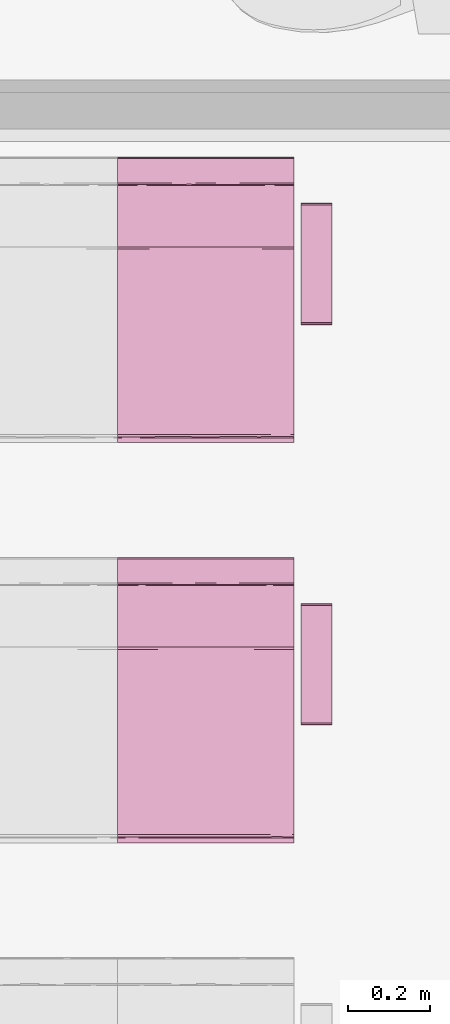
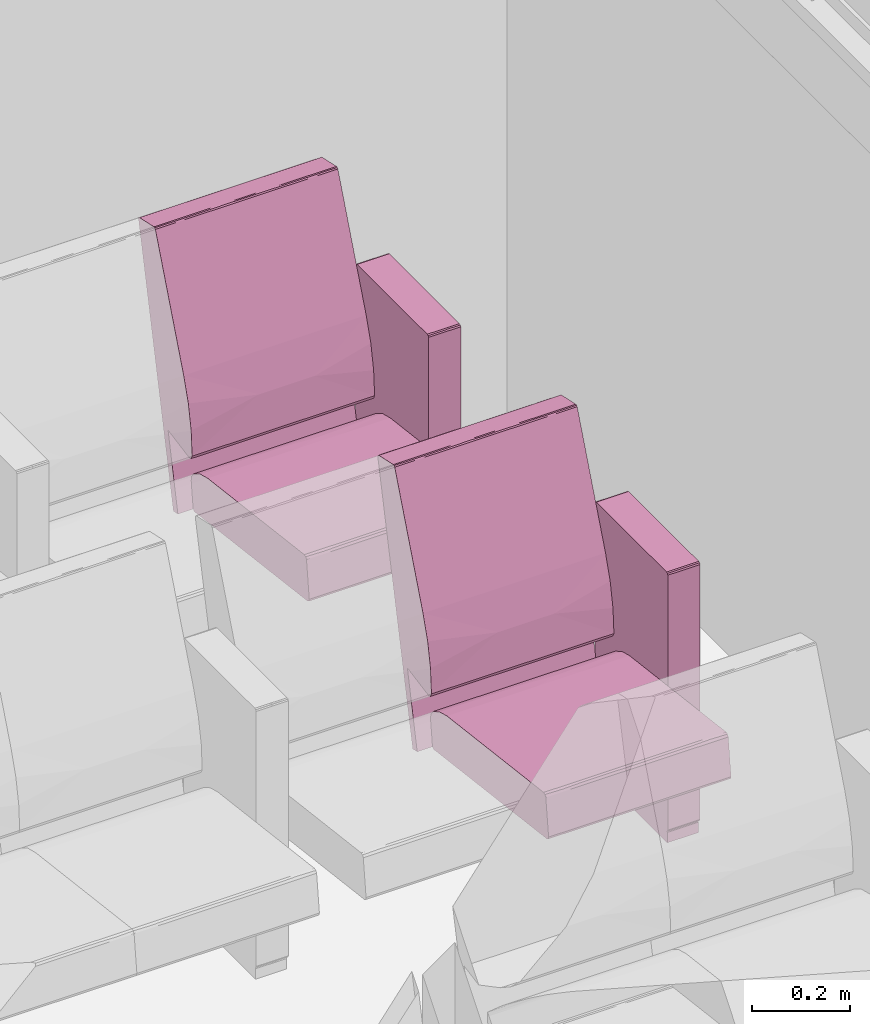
# One storey, part 141 of 155: 2 furnishings.
"""IFC2X3 building model written with IfcOpenShell, lengths in metres."""

from ifc_helpers import new_model, entity, si_unit, converted_unit, derived_unit, direction, frame, origin, place, context, subcontext, project, spatial, faceted_brep, source, transform, mapped, material, material_list, type_object, type_shapes, element, save


model = new_model("IFC2X3")

# Units and contexts
model_context = context("Model", 3, precision=1e-05, world=origin(), true_north=direction((6.12303176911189e-17, 1.0)))
body_context = subcontext(model_context, "Body", "Model", "MODEL_VIEW")
ifc_project = project(units=[si_unit("LENGTHUNIT", "METRE"), si_unit("AREAUNIT", "SQUARE_METRE"), si_unit("VOLUMEUNIT", "CUBIC_METRE"), converted_unit("PLANEANGLEUNIT", "DEGREE", entity("IfcRatioMeasure", 0.0174532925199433), si_unit("PLANEANGLEUNIT", "RADIAN"), dimensions=[0, 0, 0, 0, 0, 0, 0]), si_unit("MASSUNIT", "GRAM", prefix="KILO"), derived_unit("MASSDENSITYUNIT", [(si_unit("MASSUNIT", "GRAM", prefix="KILO"), 1), (si_unit("LENGTHUNIT", "METRE"), -3)]), si_unit("TIMEUNIT", "SECOND"), si_unit("FREQUENCYUNIT", "HERTZ"), si_unit("THERMODYNAMICTEMPERATUREUNIT", "DEGREE_CELSIUS"), derived_unit("THERMALTRANSMITTANCEUNIT", [(si_unit("MASSUNIT", "GRAM", prefix="KILO"), 1), (si_unit("THERMODYNAMICTEMPERATUREUNIT", "KELVIN"), -1), (si_unit("TIMEUNIT", "SECOND"), -3)]), derived_unit("VOLUMETRICFLOWRATEUNIT", [(si_unit("LENGTHUNIT", "METRE"), 3), (si_unit("TIMEUNIT", "SECOND"), -1)]), si_unit("ELECTRICCURRENTUNIT", "AMPERE"), si_unit("ELECTRICVOLTAGEUNIT", "VOLT"), si_unit("POWERUNIT", "WATT"), si_unit("FORCEUNIT", "NEWTON", prefix="KILO"), si_unit("ILLUMINANCEUNIT", "LUX"), si_unit("LUMINOUSFLUXUNIT", "LUMEN"), si_unit("LUMINOUSINTENSITYUNIT", "CANDELA"), derived_unit("USERDEFINED", [(si_unit("MASSUNIT", "GRAM", prefix="KILO"), -1), (si_unit("LENGTHUNIT", "METRE"), -2), (si_unit("TIMEUNIT", "SECOND"), 3), (si_unit("LUMINOUSFLUXUNIT", "LUMEN"), 1)]), derived_unit("LINEARVELOCITYUNIT", [(si_unit("LENGTHUNIT", "METRE"), 1), (si_unit("TIMEUNIT", "SECOND"), -1)]), si_unit("PRESSUREUNIT", "PASCAL"), derived_unit("USERDEFINED", [(si_unit("LENGTHUNIT", "METRE"), -2), (si_unit("MASSUNIT", "GRAM", prefix="KILO"), 1), (si_unit("TIMEUNIT", "SECOND"), -2)])], contexts=[model_context])

# Site, building, storey, space
site_placement = place(None, frame((26.9889013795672, -17.5624287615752, 0.0)))
site = spatial("IfcSite", under=ifc_project, at=site_placement, Name="Default", CompositionType="ELEMENT")
building_placement = place(site_placement, origin())
building = spatial("IfcBuilding", under=site, at=building_placement, Name="C. C. L. Monsenhor Antônio Sampaio", CompositionType="ELEMENT")
storey_placement = place(building_placement, frame((0.0, 0.0, 1.19999999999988)))
storey = spatial("IfcBuildingStorey", under=building, at=storey_placement, Name="Nível 1.2", CompositionType="ELEMENT", Elevation=1.19999999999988)
space_placement = place(storey_placement, origin())
space = spatial("IfcSpace", under=storey, at=space_placement, Name="94", CompositionType="ELEMENT", InteriorOrExteriorSpace="INTERNAL")

# Furnishings
ifc_material_1 = material(Name="V9 - V9 - Ecopelle_672_658")
ifc_material_2 = material(Name="V9 - V9 - RAL_9006_Grigio")
ifc_material_list_1 = material_list([ifc_material_1, ifc_material_2])
ifc_material_list_2 = material_list([ifc_material_1, ifc_material_2])
furniture_type = type_object("IfcFurnitureType", Name="Cadeira auditório", material=ifc_material_list_2)
shared_shape = source(origin(), body_context, "Body", "Brep", [
    faceted_brep([(0.405536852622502, -0.1075, 0.339809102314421), (0.410560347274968, -0.131924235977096, 0.34246450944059), (0.405536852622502, -0.156348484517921, 0.339809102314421), (0.41079981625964, -0.0179166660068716, 0.342749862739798), (0.410597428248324, -0.084060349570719, 0.342506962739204), (0.405536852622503, -0.0537499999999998, 0.339809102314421), (0.410248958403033, -0.173608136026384, 0.342130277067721), (0.405536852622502, -0.215, 0.339809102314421), (0.412515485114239, -0.143333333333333, 0.348529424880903), (0.412515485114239, -0.185674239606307, 0.348529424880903), (0.405536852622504, 0.1075, 0.33980910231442), (0.405536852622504, 0.156348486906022, 0.33980910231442), (0.410560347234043, 0.131924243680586, 0.342464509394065), (0.405536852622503, 0.0, 0.33980910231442), (0.411170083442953, 0.0341365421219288, 0.343251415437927), (0.41251548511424, 0.0, 0.348529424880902), (0.412515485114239, -0.0358333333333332, 0.348529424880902), (0.412515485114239, -0.0716666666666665, 0.348529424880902), (0.41251548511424, 0.143333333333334, 0.348529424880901), (0.41059742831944, 0.0840603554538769, 0.342506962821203), (0.405536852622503, 0.0537500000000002, 0.33980910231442), (0.410248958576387, 0.173608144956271, 0.342130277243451), (0.410799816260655, 0.215, 0.342749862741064), (0.412515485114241, 0.185674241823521, 0.348529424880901), (0.412515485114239, -0.215, 0.348529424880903), (0.410799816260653, -0.215, 0.342749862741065), (0.412515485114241, 0.215, 0.348529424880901), (0.41251548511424, 0.0716666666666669, 0.348529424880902), (0.405536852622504, 0.215, 0.33980910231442), (-0.0557900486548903, -0.215, 0.28268145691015), (-0.0557900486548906, -0.1881249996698, 0.282681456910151), (-0.0557900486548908, -0.161250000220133, 0.282681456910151), (-0.055790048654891, -0.134374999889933, 0.282681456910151), (-0.0557900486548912, -0.107499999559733, 0.282681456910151), (-0.0557900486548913, -0.0806250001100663, 0.282681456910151), (-0.0557900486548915, -0.0537499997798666, 0.282681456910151), (-0.0557900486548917, -0.0268749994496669, 0.282681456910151), (-0.0557900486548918, 0.0, 0.28268145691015), (-0.0557900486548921, 0.0268750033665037, 0.282681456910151), (-0.0557900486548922, 0.0537499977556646, 0.282681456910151), (-0.0557900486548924, 0.0806249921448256, 0.282681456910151), (-0.0557900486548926, 0.107499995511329, 0.282681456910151), (-0.0557900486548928, 0.138065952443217, 0.282681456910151), (-0.055790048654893, 0.168631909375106, 0.282681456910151), (-0.0557900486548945, 0.215, 0.28268145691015), (-0.0594787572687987, -0.0179017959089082, 0.283700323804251), (-0.0613666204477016, 0.0, 0.287029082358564), (-0.0594787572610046, 0.0152829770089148, 0.283700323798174), (-0.0594787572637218, -0.215, 0.283700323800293), (-0.0613666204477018, -0.215, 0.287029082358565), (-0.0613666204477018, -0.191815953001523, 0.287029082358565), (-0.0613666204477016, -0.030565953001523, 0.287029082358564), (-0.0593340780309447, -0.0671874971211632, 0.283591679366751), (-0.0593337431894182, 0.184174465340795, 0.283591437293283), (-0.0594787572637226, 0.215, 0.283700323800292), (-0.0593023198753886, 0.0940625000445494, 0.283568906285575), (-0.0613666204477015, 0.0611319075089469, 0.287029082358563), (-0.0613666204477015, 0.0916978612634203, 0.287029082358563), (-0.0613666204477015, 0.122263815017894, 0.287029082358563), (-0.0597338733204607, -0.147039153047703, 0.283913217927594), (-0.0613666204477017, -0.122263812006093, 0.287029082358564), (-0.059382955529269, -0.118123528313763, 0.28362747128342), (-0.0592501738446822, -0.180223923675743, 0.283532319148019), (-0.0613666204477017, -0.168631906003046, 0.287029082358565), (-0.0588783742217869, -0.0926899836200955, 0.283298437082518), (-0.0613666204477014, 0.168631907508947, 0.287029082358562), (-0.0613666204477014, 0.215, 0.287029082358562), (-0.0592576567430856, 0.123736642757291, 0.283537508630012), (-0.0594787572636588, 0.153348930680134, 0.283700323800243), (-0.0613666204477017, -0.0916978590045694, 0.287029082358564), (-0.0613666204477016, 0.0305659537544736, 0.287029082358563), (-0.059645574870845, 0.045848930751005, 0.283836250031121), (-0.0613666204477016, -0.0611319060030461, 0.287029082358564), (-0.0693403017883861, 0.143333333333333, 0.351419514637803), (-0.069340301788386, 0.215, 0.351419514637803), (-0.0693403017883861, -0.215, 0.351419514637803), (-0.0693403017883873, -0.143333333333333, 0.351419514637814), (-0.069340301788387, -0.0716666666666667, 0.351419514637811), (-0.0693403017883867, 0.0, 0.351419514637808), (-0.0693403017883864, 0.0716666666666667, 0.351419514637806), (-0.0653387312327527, -0.0126787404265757, 0.368680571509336), (-0.0645543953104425, -0.112272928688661, 0.369803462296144), (-0.0597085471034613, 0.0, 0.37476954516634), (-0.0655136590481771, 0.104400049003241, 0.368411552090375), (-0.0681665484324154, 0.0888707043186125, 0.36292533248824), (-0.0694879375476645, -0.0590582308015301, 0.356377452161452), (-0.0695056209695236, 0.125492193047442, 0.356093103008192), (-0.0597085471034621, 0.110316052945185, 0.374769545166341), (-0.0676206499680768, -0.215, 0.364371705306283), (-0.0672851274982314, -0.108066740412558, 0.365148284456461), (-0.0690003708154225, -0.132942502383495, 0.359900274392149), (-0.068624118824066, -0.215, 0.356813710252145), (-0.0686241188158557, 0.214999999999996, 0.356813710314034), (-0.0694502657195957, 0.0358333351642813, 0.356863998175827), (-0.0686999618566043, -0.035833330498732, 0.36116674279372), (-0.067620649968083, 0.214999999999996, 0.364371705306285), (-0.063664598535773, 0.214999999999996, 0.369570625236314), (-0.0597085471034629, 0.214999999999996, 0.374769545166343), (-0.0597085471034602, -0.110316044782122, 0.374769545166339), (-0.0636645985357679, -0.215, 0.36957062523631), (-0.0597085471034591, -0.215, 0.374769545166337), (-0.0018793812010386, -0.215, 0.398686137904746), (-0.0324117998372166, -0.0436847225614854, 0.39063968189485), (-0.0324117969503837, -0.215, 0.390639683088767), (-0.041847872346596, 0.0856576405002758, 0.386239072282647), (-0.00187938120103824, 0.102488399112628, 0.398686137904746), (-0.00187938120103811, 0.215, 0.398686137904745), (-0.0324117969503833, 0.215, 0.390639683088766), (-0.0219042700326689, 0.0570631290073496, 0.394412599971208), (-0.00187938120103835, 0.0, 0.398686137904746), (0.392202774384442, -0.215, 0.447486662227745), (0.392202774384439, -0.156349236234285, 0.447486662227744), (0.392202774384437, -0.107499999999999, 0.447486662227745), (0.392202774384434, -0.0537499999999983, 0.447486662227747), (0.392202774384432, 0.0, 0.447486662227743), (0.392202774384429, 0.0537500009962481, 0.44748666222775), (0.392202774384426, 0.107500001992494, 0.447486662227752), (0.392202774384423, 0.156349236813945, 0.447486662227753), (0.392202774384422, 0.215, 0.447486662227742), (0.397860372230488, 0.0827732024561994, 0.446039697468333), (0.401125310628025, 0.0976984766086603, 0.440530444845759), (0.398104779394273, 0.131924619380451, 0.445856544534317), (0.397373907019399, 0.173462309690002, 0.446363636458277), (0.401125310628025, 0.156349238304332, 0.440530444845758), (0.401125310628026, 0.215000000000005, 0.440530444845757), (0.398104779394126, 0.215000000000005, 0.445856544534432), (0.397860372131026, -0.0827731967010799, 0.446039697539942), (0.398104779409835, -0.131924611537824, 0.445856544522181), (0.398104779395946, -0.0268749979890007, 0.445856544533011), (0.398104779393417, 0.0237489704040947, 0.445856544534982), (0.401125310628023, -0.0488492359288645, 0.440530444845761), (0.401125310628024, 0.0488492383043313, 0.44053044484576), (0.398774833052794, -0.173462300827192, 0.445271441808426), (0.401125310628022, -0.0976984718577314, 0.440530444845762), (0.39810477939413, -0.215, 0.445856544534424), (0.401125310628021, -0.215, 0.440530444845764), (0.401125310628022, -0.156349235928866, 0.440530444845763), (0.401125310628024, 0.0, 0.44053044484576)], [[[0, 1, 2]], [[3, 4, 5]], [[2, 6, 7]], [[8, 9, 6]], [[10, 11, 12]], [[13, 3, 5]], [[3, 14, 15]], [[1, 4, 8]], [[6, 1, 8]], [[4, 3, 16]], [[16, 17, 8, 4]], [[12, 18, 19]], [[4, 1, 0]], [[20, 14, 13]], [[21, 22, 23]], [[15, 16, 3]], [[9, 24, 25]], [[26, 23, 22]], [[7, 6, 25]], [[12, 11, 21]], [[19, 14, 20]], [[4, 0, 5]], [[14, 27, 15]], [[13, 14, 3]], [[19, 18, 27]], [[19, 10, 12]], [[18, 21, 23]], [[10, 19, 20]], [[19, 27, 14]], [[2, 1, 6]], [[21, 11, 28]], [[25, 6, 9]], [[18, 12, 21]], [[22, 21, 28]], [[28, 11, 10, 20, 13, 5, 0, 2, 7, 29, 30, 31, 32, 33, 34, 35, 36, 37, 38, 39, 40, 41, 42, 43, 44]], [[45, 46, 47]], [[48, 49, 50]], [[51, 45, 52]], [[53, 54, 44]], [[55, 56, 57, 58]], [[59, 60, 61]], [[62, 63, 59]], [[34, 64, 52]], [[53, 65, 66]], [[41, 67, 42]], [[37, 36, 35, 45, 47, 38]], [[43, 42, 68]], [[29, 48, 30]], [[59, 31, 62]], [[62, 48, 50]], [[61, 69, 64]], [[65, 53, 68]], [[50, 63, 62]], [[62, 30, 48]], [[55, 58, 67]], [[32, 31, 59]], [[46, 70, 47]], [[65, 68, 58]], [[55, 40, 71]], [[70, 56, 71]], [[61, 33, 32]], [[59, 63, 60]], [[39, 38, 71, 40]], [[47, 71, 38]], [[51, 46, 45]], [[70, 71, 47]], [[71, 56, 55]], [[40, 55, 41]], [[67, 68, 42]], [[43, 68, 53]], [[43, 53, 44]], [[66, 54, 53]], [[68, 67, 58]], [[55, 67, 41]], [[72, 51, 52, 69]], [[62, 31, 30]], [[59, 61, 32]], [[35, 52, 45]], [[64, 34, 33]], [[34, 52, 35]], [[61, 60, 69]], [[52, 64, 69]], [[61, 64, 33]], [[73, 74, 66, 65, 58, 57, 56, 70, 46, 51, 72, 69, 60, 63, 50, 49, 75, 76, 77, 78, 79]], [[80, 81, 82]], [[83, 84, 80]], [[85, 78, 77, 76]], [[73, 79, 86]], [[80, 82, 83]], [[87, 83, 82]], [[88, 89, 90]], [[76, 75, 91]], [[92, 74, 73]], [[91, 90, 85]], [[80, 89, 81]], [[84, 93, 94]], [[84, 86, 93]], [[93, 78, 85]], [[73, 86, 92]], [[94, 93, 85]], [[95, 92, 84]], [[78, 93, 79]], [[80, 84, 94]], [[83, 96, 95]], [[94, 85, 90]], [[87, 97, 96]], [[98, 99, 100]], [[91, 85, 76]], [[94, 90, 89]], [[90, 91, 88]], [[89, 80, 94]], [[89, 99, 81]], [[89, 88, 99]], [[82, 81, 98]], [[81, 99, 98]], [[92, 86, 84]], [[93, 86, 79]], [[84, 83, 95]], [[96, 83, 87]], [[101, 102, 103]], [[104, 97, 87, 82]], [[105, 106, 107]], [[107, 108, 105]], [[109, 102, 101]], [[82, 102, 104]], [[102, 108, 104]], [[103, 102, 100]], [[97, 104, 107]], [[104, 108, 107]], [[102, 82, 98, 100]], [[105, 108, 109]], [[108, 102, 109]], [[109, 101, 110, 111, 112, 113, 114, 115, 116, 117, 118, 106, 105]], [[119, 120, 121]], [[122, 123, 124]], [[122, 125, 118]], [[126, 113, 112]], [[117, 121, 122]], [[121, 117, 116]], [[112, 111, 127]], [[113, 128, 129, 115, 114]], [[126, 130, 128]], [[129, 131, 119]], [[111, 132, 127]], [[132, 111, 110]], [[133, 126, 127]], [[123, 122, 121]], [[132, 134, 135]], [[127, 132, 136]], [[123, 121, 120]], [[127, 136, 133]], [[129, 128, 130, 137, 131]], [[112, 127, 126]], [[126, 133, 130]], [[119, 121, 116]], [[113, 126, 128]], [[119, 115, 129]], [[119, 116, 115]], [[120, 119, 131]], [[117, 122, 118]], [[124, 125, 122]], [[136, 132, 135]], [[110, 134, 132]], [[137, 130, 133, 136, 135, 24, 9, 8, 17, 16, 15, 27, 18, 23, 26, 124, 123, 120, 131]], [[44, 54, 66, 74, 92, 95, 96, 97, 107, 106, 118, 125, 124, 26, 22, 28]], [[75, 49, 48, 29, 7, 25, 24, 135, 134, 110, 101, 103, 100, 99, 88, 91]]]),
    faceted_brep([(0.119812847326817, 0.27, 0.674900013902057), (0.12334838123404, 0.259944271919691, 0.6734355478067), (0.123144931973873, 0.283972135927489, 0.673627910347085), (0.124812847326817, 0.27, 0.669900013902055), (0.119812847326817, 0.232, 0.674900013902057), (0.12334838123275, 0.232, 0.673435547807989), (0.124812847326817, 0.308, 0.669900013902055), (0.119812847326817, 0.308, 0.674900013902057), (0.124812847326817, 0.249888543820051, 0.669900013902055), (0.124812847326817, 0.232, 0.669900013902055), (0.12334838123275, 0.308, 0.673435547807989), (0.124812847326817, 0.232, 0.0349999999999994), (0.124812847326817, 0.27, 0.035), (0.124812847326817, 0.308, 0.035), (0.12334838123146, 0.25994427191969, 0.0314644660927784), (0.123540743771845, 0.283972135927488, 0.0316679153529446), (0.119812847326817, 0.27, 0.0300000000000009), (0.12334838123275, 0.232, 0.0314644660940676), (0.119812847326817, 0.308, 0.0300000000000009), (0.119812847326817, 0.249888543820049, 0.030000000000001), (0.119812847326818, 0.232, 0.030000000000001), (0.123348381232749, 0.308, 0.0314644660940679), (-0.167179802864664, 0.27, 0.0300000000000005), (-0.167179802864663, 0.308, 0.0300000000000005), (-0.167179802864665, 0.232, 0.0300000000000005), (-0.170715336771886, 0.25994427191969, 0.0314644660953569), (-0.17051188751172, 0.283972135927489, 0.0312721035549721), (-0.172179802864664, 0.27, 0.0350000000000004), (-0.170715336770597, 0.232, 0.0314644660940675), (-0.172179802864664, 0.308, 0.0350000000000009), (-0.172179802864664, 0.24988854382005, 0.0350000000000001), (-0.172179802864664, 0.232, 0.0349999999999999), (-0.170715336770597, 0.308, 0.0314644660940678), (-0.172179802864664, 0.308, 0.669900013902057), (-0.172179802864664, 0.232, 0.669900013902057), (-0.172179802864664, 0.27, 0.669900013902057), (-0.170715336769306, 0.259944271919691, 0.673435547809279), (-0.170907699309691, 0.283972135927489, 0.673232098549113), (-0.167179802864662, 0.27, 0.674900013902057), (-0.170715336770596, 0.232, 0.67343554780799), (-0.167179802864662, 0.308, 0.674900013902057), (-0.167179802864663, 0.249888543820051, 0.674900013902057), (-0.167179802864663, 0.232, 0.674900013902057), (-0.170715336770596, 0.308, 0.67343554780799)], [[[0, 1, 2]], [[3, 2, 1]], [[0, 4, 5, 1]], [[2, 3, 6]], [[0, 2, 7]], [[8, 3, 1, 5, 9]], [[7, 2, 10]], [[6, 10, 2]], [[9, 11, 12, 13, 6, 3, 8]], [[12, 14, 15]], [[16, 15, 14]], [[12, 11, 17, 14]], [[15, 16, 18]], [[12, 15, 13]], [[19, 16, 14, 17, 20]], [[13, 15, 21]], [[18, 21, 15]], [[22, 23, 18, 16, 19, 20, 24]], [[22, 25, 26]], [[27, 26, 25]], [[22, 24, 28, 25]], [[26, 27, 29]], [[22, 26, 23]], [[30, 27, 25, 28, 31]], [[23, 26, 32]], [[29, 32, 26]], [[33, 29, 27, 30, 31, 34, 35]], [[35, 36, 37]], [[38, 37, 36]], [[35, 34, 39, 36]], [[37, 38, 40]], [[35, 37, 33]], [[41, 38, 36, 39, 42]], [[33, 37, 43]], [[40, 43, 37]], [[0, 7, 40, 38, 41, 42, 4]], [[42, 39, 34, 31, 28, 24, 20, 17, 11, 9, 5, 4]], [[23, 32, 29, 33, 43, 40, 7, 10, 6, 13, 21, 18]]]),
    faceted_brep([(-0.0655618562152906, -0.215, 0.415143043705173), (-0.0744051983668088, -0.0524423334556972, 0.506888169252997), (-0.0695672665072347, -0.215, 0.476508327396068), (-0.0655618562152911, 0.0, 0.415143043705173), (-0.0744051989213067, 0.0780075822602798, 0.506888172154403), (-0.0655618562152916, 0.1075, 0.415143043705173), (-0.0655618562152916, 0.215, 0.415143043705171), (-0.0655618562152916, -0.1075, 0.415143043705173), (-0.0695672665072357, 0.215, 0.476508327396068), (-0.0811110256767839, 0.215, 0.536911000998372), (-0.0811110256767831, -0.215, 0.536911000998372), (-0.100016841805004, 0.0, 0.595428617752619), (-0.100016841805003, -0.215, 0.595428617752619), (-0.100016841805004, 0.215, 0.595428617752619), (-0.0792851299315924, -0.0716666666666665, 0.404772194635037), (-0.0792851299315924, 0.0, 0.404772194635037), (-0.0698317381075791, -0.0358333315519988, 0.406528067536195), (-0.0698317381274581, 0.215, 0.406528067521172), (-0.0792851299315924, 0.143333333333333, 0.404772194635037), (-0.0792851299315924, 0.215, 0.404772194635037), (-0.0698317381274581, -0.215, 0.406528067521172), (-0.0792851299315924, -0.215, 0.404772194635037), (-0.0792851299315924, -0.143333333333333, 0.404772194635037), (-0.0694171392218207, -0.140338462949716, 0.406857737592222), (-0.0708115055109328, 0.0356393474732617, 0.405868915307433), (-0.0703502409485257, 0.107500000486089, 0.406159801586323), (-0.0792851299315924, 0.0716666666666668, 0.404772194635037), (-0.163837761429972, 0.215, 0.420611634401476), (-0.163837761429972, -0.215, 0.420611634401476), (-0.123612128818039, -0.215, 0.235917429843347), (-0.123612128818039, 0.215, 0.235917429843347), (-0.142059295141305, -0.215, 0.231899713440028), (-0.142059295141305, 0.215, 0.231899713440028), (-0.235388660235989, -0.215, 0.652619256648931), (-0.235388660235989, 0.215, 0.652619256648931), (-0.28428001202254, 0.0, 0.873004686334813), (-0.284280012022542, 0.0268749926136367, 0.873004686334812), (-0.284280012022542, 0.0537499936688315, 0.873004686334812), (-0.284280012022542, 0.0806249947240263, 0.873004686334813), (-0.284280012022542, 0.107499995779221, 0.873004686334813), (-0.284280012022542, 0.134374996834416, 0.873004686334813), (-0.284280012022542, 0.161249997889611, 0.873004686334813), (-0.284280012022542, 0.191295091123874, 0.873004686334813), (-0.28428001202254, 0.215, 0.873004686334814), (-0.284280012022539, -0.215, 0.873004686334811), (-0.28428001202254, -0.191295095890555, 0.873004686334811), (-0.284280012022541, -0.161249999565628, 0.873004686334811), (-0.284280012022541, -0.134374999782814, 0.873004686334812), (-0.284280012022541, -0.1075, 0.873004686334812), (-0.284280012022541, -0.0806250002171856, 0.873004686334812), (-0.284280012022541, -0.0537500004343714, 0.873004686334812), (-0.284280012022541, -0.0268749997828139, 0.873004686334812), (-0.283504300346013, -0.0569644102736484, 0.877068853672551), (-0.283746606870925, -0.0872244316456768, 0.876674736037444), (-0.283641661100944, 0.12093750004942, 0.876855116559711), (-0.283567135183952, 0.15546176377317, 0.876973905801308), (-0.28330409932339, -0.185293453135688, 0.877344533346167), (-0.283567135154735, -0.155461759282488, 0.876973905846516), (-0.280514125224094, 0.0, 0.879190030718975), (-0.280514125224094, 0.0358333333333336, 0.879190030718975), (-0.283641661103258, 0.0136463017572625, 0.876855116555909), (-0.283641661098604, -0.0179166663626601, 0.876855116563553), (-0.280514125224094, -0.0358333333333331, 0.879190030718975), (-0.280514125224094, 0.1075, 0.879190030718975), (-0.280514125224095, 0.143333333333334, 0.879190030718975), (-0.283746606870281, 0.0872244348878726, 0.876674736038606), (-0.280514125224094, 0.071666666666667, 0.879190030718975), (-0.280514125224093, -0.1075, 0.879190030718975), (-0.280514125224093, -0.0716666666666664, 0.879190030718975), (-0.280514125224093, -0.143333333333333, 0.879190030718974), (-0.283641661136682, -0.120937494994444, 0.876855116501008), (-0.283641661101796, -0.215, 0.876855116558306), (-0.283641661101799, 0.215, 0.876855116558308), (-0.280514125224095, 0.167590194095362, 0.879190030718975), (-0.283304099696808, 0.18529345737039, 0.877344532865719), (-0.280514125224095, 0.215, 0.879190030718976), (-0.280514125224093, -0.167590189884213, 0.879190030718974), (-0.280514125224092, -0.215, 0.879190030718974), (-0.283504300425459, 0.0569644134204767, 0.8770688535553), (-0.221112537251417, -0.215, 0.892176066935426), (-0.221112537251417, -0.19181594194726, 0.892176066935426), (-0.221112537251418, -0.16124999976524, 0.892176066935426), (-0.221112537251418, -0.13437499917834, 0.892176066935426), (-0.221112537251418, -0.10749999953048, 0.892176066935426), (-0.221112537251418, -0.08062499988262, 0.892176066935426), (-0.221112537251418, -0.0537500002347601, 0.892176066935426), (-0.221112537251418, -0.0268750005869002, 0.892176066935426), (-0.221112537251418, 0.0, 0.892176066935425), (-0.221112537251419, 0.0268750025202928, 0.892176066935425), (-0.221112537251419, 0.053749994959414, 0.892176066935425), (-0.221112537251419, 0.0806249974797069, 0.892176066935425), (-0.221112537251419, 0.1075, 0.892176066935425), (-0.221112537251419, 0.134375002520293, 0.892176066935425), (-0.221112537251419, 0.161250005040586, 0.892176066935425), (-0.221112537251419, 0.191815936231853, 0.892176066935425), (-0.221112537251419, 0.215, 0.892176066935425), (-0.217722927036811, -0.0162353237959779, 0.891719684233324), (-0.215419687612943, -0.0358333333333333, 0.889191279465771), (-0.215419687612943, 0.0, 0.889191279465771), (-0.217722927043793, 0.0134375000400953, 0.891719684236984), (-0.217722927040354, 0.120937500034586, 0.89171968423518), (-0.217722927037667, 0.0912646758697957, 0.891719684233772), (-0.215419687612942, 0.0716666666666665, 0.88919127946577), (-0.215419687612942, 0.1075, 0.88919127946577), (-0.215419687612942, 0.143333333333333, 0.88919127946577), (-0.217722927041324, 0.215, 0.891719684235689), (-0.217722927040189, 0.182482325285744, 0.891719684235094), (-0.215419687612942, 0.168631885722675, 0.889191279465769), (-0.215419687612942, 0.191815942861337, 0.889191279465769), (-0.215419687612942, 0.215, 0.889191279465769), (-0.217722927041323, -0.215, 0.89171968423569), (-0.215419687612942, -0.215, 0.889191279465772), (-0.215419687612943, -0.191815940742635, 0.889191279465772), (-0.217722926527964, -0.190103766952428, 0.891719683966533), (-0.2179983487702, 0.039082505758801, 0.891853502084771), (-0.217816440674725, 0.0647800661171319, 0.891767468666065), (-0.217558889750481, 0.155982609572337, 0.891629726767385), (-0.217722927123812, -0.120937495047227, 0.891719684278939), (-0.217558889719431, -0.15598260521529, 0.891629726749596), (-0.215419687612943, -0.143333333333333, 0.889191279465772), (-0.215419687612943, -0.16863188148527, 0.889191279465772), (-0.215419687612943, -0.0716666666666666, 0.889191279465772), (-0.217816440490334, -0.0647800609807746, 0.891767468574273), (-0.217722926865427, -0.0912646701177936, 0.891719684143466), (-0.215419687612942, 0.0358333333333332, 0.889191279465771), (-0.215419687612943, -0.1075, 0.889191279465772), (-0.218257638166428, -0.0404491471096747, 0.891961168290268)], [[[0, 1, 2]], [[3, 4, 1]], [[4, 3, 5, 6]], [[1, 0, 7, 3]], [[8, 4, 6]], [[9, 4, 8]], [[1, 10, 2]], [[1, 11, 12]], [[9, 13, 4]], [[13, 11, 4]], [[10, 1, 12]], [[11, 1, 4]], [[14, 15, 16]], [[17, 18, 19]], [[20, 21, 22]], [[20, 23, 0]], [[3, 7, 16]], [[15, 24, 16]], [[24, 25, 5]], [[22, 23, 20]], [[7, 23, 16]], [[6, 5, 17]], [[16, 24, 3]], [[16, 23, 14]], [[23, 22, 14]], [[18, 25, 26]], [[18, 17, 25]], [[26, 24, 15]], [[7, 0, 23]], [[5, 25, 17]], [[25, 24, 26]], [[3, 24, 5]], [[27, 19, 18, 26, 15, 14, 22, 21, 28]], [[27, 28, 29, 30]], [[31, 32, 30, 29]], [[33, 34, 32, 31]], [[35, 36, 37, 38, 39, 40, 41, 42, 43, 34, 33, 44, 45, 46, 47, 48, 49, 50, 51]], [[52, 49, 53]], [[54, 55, 40]], [[46, 56, 57]], [[58, 59, 60, 61, 62]], [[54, 63, 64]], [[65, 66, 63]], [[67, 68, 53]], [[57, 69, 70]], [[45, 56, 46]], [[39, 54, 40]], [[45, 44, 71]], [[72, 43, 42]], [[35, 51, 61, 60, 36]], [[55, 73, 74]], [[39, 65, 54]], [[74, 73, 75]], [[67, 53, 70]], [[74, 42, 41]], [[64, 73, 55]], [[56, 76, 57]], [[74, 72, 42]], [[76, 56, 77]], [[56, 71, 77]], [[57, 76, 69]], [[48, 70, 53]], [[70, 48, 47]], [[60, 78, 36]], [[63, 54, 65]], [[71, 56, 45]], [[41, 55, 74]], [[72, 74, 75]], [[57, 70, 47]], [[47, 46, 57]], [[69, 67, 70]], [[50, 49, 52, 51]], [[52, 62, 61]], [[61, 51, 52]], [[55, 41, 40]], [[55, 54, 64]], [[66, 65, 78]], [[65, 38, 78]], [[52, 53, 68]], [[37, 36, 78, 38]], [[78, 59, 66]], [[59, 78, 60]], [[49, 48, 53]], [[65, 39, 38]], [[52, 68, 62]], [[79, 80, 81, 82, 83, 84, 85, 86, 87, 88, 89, 90, 91, 92, 93, 94, 95, 75, 73, 64, 63, 66, 59, 58, 62, 68, 67, 69, 76, 77]], [[96, 97, 98, 99]], [[100, 101, 102, 103, 104]], [[105, 106, 107, 108, 109]], [[110, 111, 112]], [[80, 110, 113]], [[89, 114, 115]], [[92, 116, 93]], [[94, 93, 106, 105, 95]], [[80, 79, 110]], [[92, 91, 90, 101, 100]], [[99, 88, 87, 86, 96]], [[104, 107, 116]], [[117, 83, 82]], [[117, 118, 119]], [[112, 120, 113]], [[118, 120, 119]], [[118, 81, 113]], [[116, 107, 106]], [[101, 90, 115]], [[121, 122, 123]], [[104, 116, 100]], [[110, 112, 113]], [[114, 99, 124]], [[92, 100, 116]], [[117, 125, 123]], [[82, 81, 118]], [[118, 117, 82]], [[83, 117, 123]], [[125, 117, 119]], [[102, 101, 115]], [[84, 83, 123]], [[123, 125, 121]], [[85, 84, 122]], [[89, 115, 90]], [[96, 86, 126]], [[124, 102, 115]], [[88, 99, 114]], [[99, 98, 124]], [[122, 121, 97]], [[126, 122, 97]], [[88, 114, 89]], [[115, 114, 124]], [[123, 122, 84]], [[126, 85, 122]], [[85, 126, 86]], [[96, 126, 97]], [[116, 106, 93]], [[80, 113, 81]], [[118, 113, 120]], [[12, 11, 13, 109, 108, 107, 104, 103, 102, 124, 98, 97, 121, 125, 119, 120, 112, 111]], [[30, 32, 34, 43, 72, 75, 95, 105, 109, 13, 9, 8, 6, 17, 19, 27]], [[77, 71, 44, 33, 31, 29, 28, 21, 20, 0, 2, 10, 12, 111, 110, 79]]]),
    faceted_brep([(0.120312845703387, 0.2335, 0.0), (0.120312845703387, 0.3065, 0.0), (0.120312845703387, 0.3065, 0.0260000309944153), (0.120312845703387, 0.27, 0.0260000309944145), (0.120312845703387, 0.249500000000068, 0.0260000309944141), (0.120312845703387, 0.2335, 0.0260000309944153), (-0.167687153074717, 0.2335, 0.0), (-0.167687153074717, 0.3065, 0.0), (-0.167687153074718, 0.3065, 0.0260000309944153), (-0.167687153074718, 0.2335, 0.0260000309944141), (-0.167687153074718, 0.27, 0.0260000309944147), (-0.163702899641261, 0.233500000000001, 0.0300000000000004), (-0.166521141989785, 0.257382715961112, 0.0288228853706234), (-0.166521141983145, 0.233500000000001, 0.0288228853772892), (-0.166521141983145, 0.3065, 0.0288228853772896), (-0.16652114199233, 0.279986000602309, 0.0288228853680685), (-0.163702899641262, 0.3065, 0.0300000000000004), (-0.163702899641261, 0.27, 0.0300000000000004), (0.116297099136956, 0.2335, 0.0300000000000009), (0.116297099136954, 0.270000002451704, 0.0300000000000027), (0.116297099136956, 0.3065, 0.0300000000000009), (0.119033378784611, 0.283124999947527, 0.0289323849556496), (0.119135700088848, 0.259750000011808, 0.0288340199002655), (0.1191357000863, 0.2335, 0.0288340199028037), (0.119135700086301, 0.3065, 0.0288340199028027)], [[[0, 1, 2, 3, 4, 5]], [[6, 7, 1, 0]], [[8, 7, 6, 9, 10]], [[11, 12, 13]], [[14, 15, 16]], [[17, 16, 15, 12, 11]], [[13, 12, 10, 9]], [[8, 15, 14]], [[12, 15, 8, 10]], [[16, 17, 11, 18, 19, 20]], [[3, 2, 21]], [[22, 19, 18, 23]], [[22, 23, 5, 4, 3]], [[20, 21, 24]], [[22, 3, 21]], [[19, 21, 20]], [[2, 24, 21]], [[19, 22, 21]], [[20, 24, 2, 1, 7, 8, 14, 16]], [[18, 11, 13, 9, 6, 0, 5, 23]]]),
])
type_shapes(furniture_type, [shared_shape])
furnishing_1_placement = place(space_placement, frame((-6.66594929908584, -11.4021989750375, 0.0), z_axis=(0.0, 0.0, 1.0), x_axis=(0.0, -1.0, 0.0)))
element("IfcFurnishingElement", 1, at=furnishing_1_placement, inside=space, type_object=furniture_type, material=ifc_material_list_1, Name="cadeira auditório pcd:Cadeira auditório", ObjectType="Cadeira auditório", context=body_context, shape_type="MappedRepresentation", body=[
    mapped(shared_shape, transform((0.0, 0.0, 0.0), scale=1.0)),
])
ifc_material_list_3 = material_list([ifc_material_1, ifc_material_2])
furnishing_2_placement = place(space_placement, frame((-6.66594929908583, -10.4255921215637, 0.0), z_axis=(0.0, 0.0, 1.0), x_axis=(0.0, -1.0, 0.0)))
element("IfcFurnishingElement", 2, at=furnishing_2_placement, inside=space, type_object=furniture_type, material=ifc_material_list_3, Name="cadeira auditório pcd:Cadeira auditório", ObjectType="Cadeira auditório", context=body_context, shape_type="MappedRepresentation", body=[
    mapped(shared_shape, transform((0.0, 0.0, 0.0), scale=1.0)),
])

save(model, "model.ifc")
